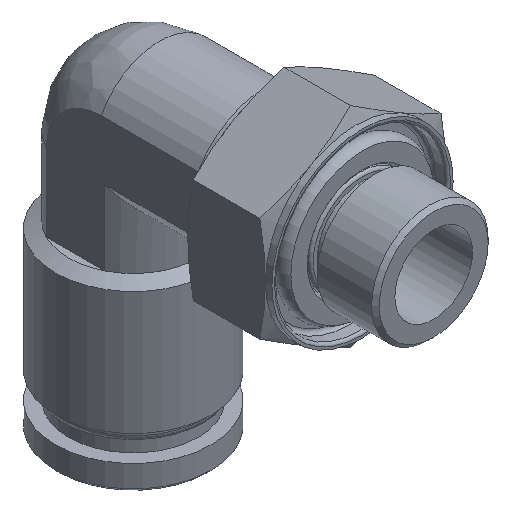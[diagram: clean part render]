
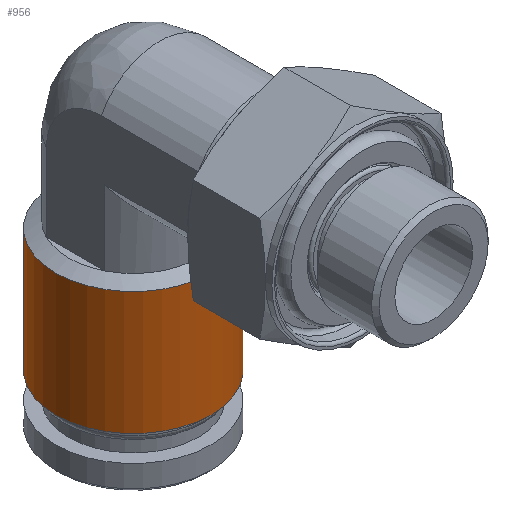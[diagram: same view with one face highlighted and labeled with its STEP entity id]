
A CAD part, isometric view. The second image highlights one B-rep face of the part: STEP entity #956.
In plain terms, the highlighted cylindrical face has radius 6 mm (diameter 12 mm), a full revolution.
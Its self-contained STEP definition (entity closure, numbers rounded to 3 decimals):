
#166=FACE_OUTER_BOUND('',#241,.T.);
#241=EDGE_LOOP('',(#823,#824,#825,#826));
#281=LINE('',#1791,#315);
#315=VECTOR('',#1436,6.);
#383=CIRCLE('',#1146,6.);
#386=CIRCLE('',#1152,6.);
#468=VERTEX_POINT('',#1778);
#470=VERTEX_POINT('',#1788);
#588=EDGE_CURVE('',#468,#468,#383,.T.);
#592=EDGE_CURVE('',#470,#470,#386,.T.);
#593=EDGE_CURVE('',#468,#470,#281,.T.);
#823=ORIENTED_EDGE('',*,*,#588,.F.);
#824=ORIENTED_EDGE('',*,*,#593,.T.);
#825=ORIENTED_EDGE('',*,*,#592,.T.);
#826=ORIENTED_EDGE('',*,*,#593,.F.);
#900=CYLINDRICAL_SURFACE('',#1153,6.);
#956=ADVANCED_FACE('',(#166),#900,.T.);
#1146=AXIS2_PLACEMENT_3D('',#1780,#1419,#1420);
#1152=AXIS2_PLACEMENT_3D('',#1789,#1432,#1433);
#1153=AXIS2_PLACEMENT_3D('',#1790,#1434,#1435);
#1419=DIRECTION('center_axis',(0.,0.,1.));
#1420=DIRECTION('ref_axis',(1.,0.,0.));
#1432=DIRECTION('center_axis',(0.,0.,1.));
#1433=DIRECTION('ref_axis',(1.,0.,0.));
#1434=DIRECTION('center_axis',(0.,0.,1.));
#1435=DIRECTION('ref_axis',(0.,-1.,0.));
#1436=DIRECTION('',(0.,0.,-1.));
#1778=CARTESIAN_POINT('',(0.,16.2,-8.5));
#1780=CARTESIAN_POINT('Origin',(0.,10.2,-8.5));
#1788=CARTESIAN_POINT('',(0.,16.2,-18.));
#1789=CARTESIAN_POINT('Origin',(0.,10.2,-18.));
#1790=CARTESIAN_POINT('Origin',(0.,10.2,-13.25));
#1791=CARTESIAN_POINT('',(0.,16.2,-13.25));
